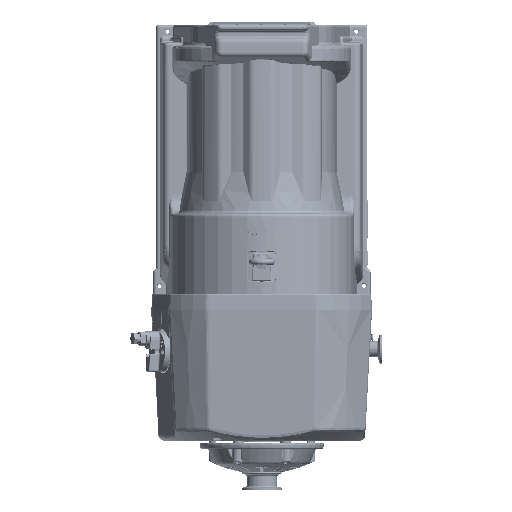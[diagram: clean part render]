
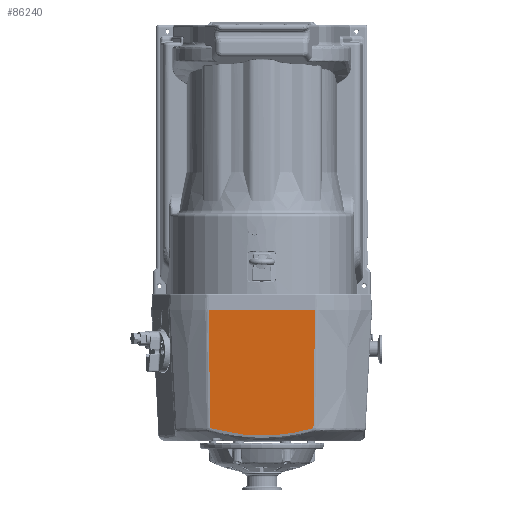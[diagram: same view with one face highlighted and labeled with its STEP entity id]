
A CAD part, top view. The second image highlights one B-rep face of the part: STEP entity #86240.
In plain terms, the highlighted planar face has unit normal (0, -0.052, 0.999) as drawn and (0, 0.999, 0.052) by its records, which use the part's own axes.
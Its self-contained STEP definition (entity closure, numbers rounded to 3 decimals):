
#67247=B_SPLINE_CURVE_WITH_KNOTS('',3,(#647192,#647193,#647194,#647195),
 .UNSPECIFIED.,.F.,.F.,(4,4),(0.,1.),.UNSPECIFIED.);
#67249=B_SPLINE_CURVE_WITH_KNOTS('',3,(#647213,#647214,#647215,#647216),
 .UNSPECIFIED.,.F.,.F.,(4,4),(0.,1.),.UNSPECIFIED.);
#67250=B_SPLINE_CURVE_WITH_KNOTS('',3,(#647218,#647219,#647220,#647221,
#647222,#647223,#647224,#647225,#647226,#647227),.UNSPECIFIED.,.F.,.F.,
(4,2,2,2,4),(0.,0.25,0.5,0.75,1.),.UNSPECIFIED.);
#86240=ADVANCED_FACE('',(#111954),#97564,.T.);
#97564=PLANE('',#376148);
#111954=FACE_OUTER_BOUND('',#132826,.T.);
#132826=EDGE_LOOP('',(#232820,#232821,#232822,#232823));
#153348=LINE('',#643547,#170078);
#170078=VECTOR('',#438770,1.);
#232820=ORIENTED_EDGE('',*,*,#333841,.T.);
#232821=ORIENTED_EDGE('',*,*,#333842,.T.);
#232822=ORIENTED_EDGE('',*,*,#333839,.T.);
#232823=ORIENTED_EDGE('',*,*,#333389,.F.);
#291970=VERTEX_POINT('',#643546);
#291971=VERTEX_POINT('',#643548);
#292307=VERTEX_POINT('',#647196);
#292308=VERTEX_POINT('',#647217);
#333389=EDGE_CURVE('',#291970,#291971,#153348,.T.);
#333839=EDGE_CURVE('',#292307,#291971,#67247,.T.);
#333841=EDGE_CURVE('',#291970,#292308,#67249,.T.);
#333842=EDGE_CURVE('',#292308,#292307,#67250,.T.);
#376148=AXIS2_PLACEMENT_3D('',#647228,#439338,#439339);
#438770=DIRECTION('',(1.,0.,0.));
#439338=DIRECTION('',(0.,0.999,0.052));
#439339=DIRECTION('',(0.,0.052,-0.999));
#643546=CARTESIAN_POINT('',(-74.847,162.144,1.624));
#643547=CARTESIAN_POINT('',(-77.978,162.144,1.624));
#643548=CARTESIAN_POINT('',(71.652,162.144,1.624));
#647192=CARTESIAN_POINT('',(69.538,153.585,164.936));
#647193=CARTESIAN_POINT('',(70.253,156.438,110.499));
#647194=CARTESIAN_POINT('',(70.957,159.291,56.062));
#647195=CARTESIAN_POINT('',(71.652,162.144,1.624));
#647196=CARTESIAN_POINT('',(69.538,153.585,164.936));
#647213=CARTESIAN_POINT('',(-74.847,162.144,1.624));
#647214=CARTESIAN_POINT('',(-74.152,159.291,56.062));
#647215=CARTESIAN_POINT('',(-73.448,156.438,110.499));
#647216=CARTESIAN_POINT('',(-72.733,153.585,164.936));
#647217=CARTESIAN_POINT('',(-72.733,153.585,164.936));
#647218=CARTESIAN_POINT('',(-72.733,153.585,164.936));
#647219=CARTESIAN_POINT('',(-61.093,153.418,168.115));
#647220=CARTESIAN_POINT('',(-49.296,153.281,170.727));
#647221=CARTESIAN_POINT('',(-25.64,153.094,174.297));
#647222=CARTESIAN_POINT('',(-13.749,153.044,175.257));
#647223=CARTESIAN_POINT('',(10.181,153.043,175.277));
#647224=CARTESIAN_POINT('',(22.29,153.093,174.317));
#647225=CARTESIAN_POINT('',(46.12,153.281,170.727));
#647226=CARTESIAN_POINT('',(57.882,153.418,168.119));
#647227=CARTESIAN_POINT('',(69.538,153.585,164.936));
#647228=CARTESIAN_POINT('',(78.744,152.724,181.362));
